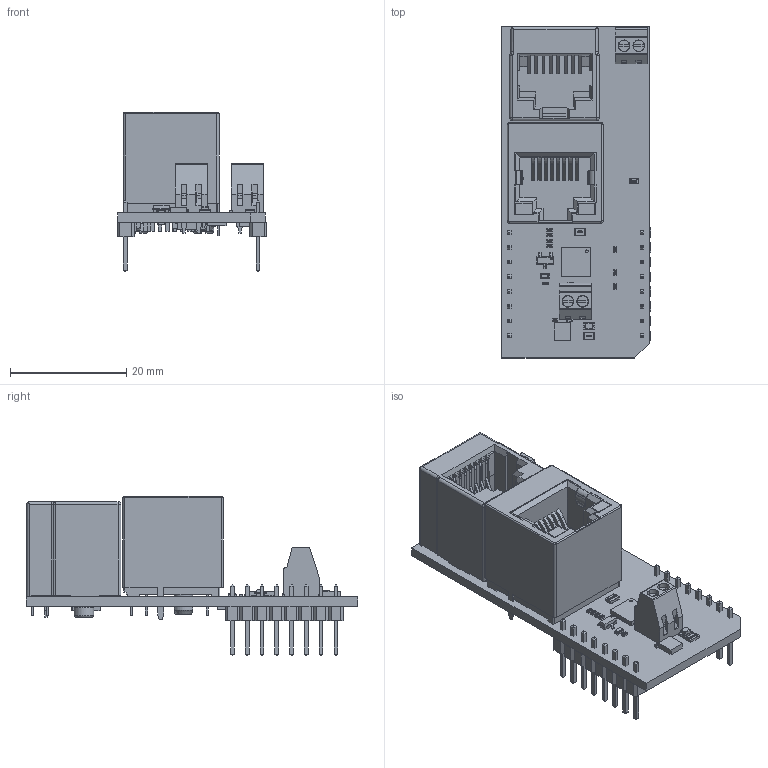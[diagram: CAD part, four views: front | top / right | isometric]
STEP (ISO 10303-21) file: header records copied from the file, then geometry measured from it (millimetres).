
FILE_DESCRIPTION(('Open CASCADE Model'),'2;1');
FILE_NAME('Open CASCADE Shape Model','2026-04-16T09:07:00',('Author'),( 'Open CASCADE'),'Open CASCADE STEP processor 6.8','Open CASCADE 6.8' ,'Unknown');
FILE_SCHEMA(('AUTOMOTIVE_DESIGN { 1 0 10303 214 1 1 1 1 }'));
Length unit declared in the file: millimetre
Products named in the file (67): PCB; Board; R18; User_Library-R_0402; R17; Q2; SOT23-3; LD2; Led_0603_RED; CN2; SI-46020-F; TVS1; User_Library-DO-214AC(SMA); C5; User_Library-SMD_CAPACITOR0603; C4; User_Library-SMD_CAPACITOR1210; TB2; ScrewTerminal_2.54; TB1; R16; R15; R14; C2; User_Library-SMD_CAPACITOR0402; R1; User_Library-R_0805; LD1; led_0805_green; R2; C1; U1; 1268868608; Extruded; MBD1; Header_1x8; Free-Models; 1240637040; User_Library-PinHeaderX5-1_PinHeaderX5_Body_1; User_Library-PinHeaderX5-1_PinHeaderX5_Pins_1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
Assembly tree (91 placements, depth 7):
  PCB
    Board
    R18
      User_Library-R_0402
    R17
      User_Library-R_0402
    Q2
      SOT23-3
    LD2
      Led_0603_RED
    CN2
      SI-46020-F
    TVS1
      User_Library-DO-214AC(SMA)
    C5
      User_Library-SMD_CAPACITOR0603
    C4
      User_Library-SMD_CAPACITOR1210
    TB2
      ScrewTerminal_2.54
    TB1
      ScrewTerminal_2.54
    R16
      User_Library-R_0402
    R15
      User_Library-R_0402
    R14
      User_Library-R_0402
    C2
      User_Library-SMD_CAPACITOR0402
    R1
      User_Library-R_0805
    LD1
      led_0805_green
    R2
      User_Library-R_0402
    C1
      User_Library-SMD_CAPACITOR0402
    U1
      1268868608
        Extruded
    MBD1
      Header_1x8  x2
        PCB
          Free-Models
            1240637040  x2
              User_Library-PinHeaderX5-1_PinHeaderX5_Body_1
              User_Library-PinHeaderX5-1_PinHeaderX5_Pins_1
    JP1
      User_Library-R_0603
    Q1
      1268577376
    R3
      User_Library-R_0402
    R4
      User_Library-R_0402
    R5
      User_Library-R_0402
    R6
      User_Library-R_0402
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Bounding box: 25.78 x 57.15 x 27.39 mm (x, y, z)
Volume: 9495.3 mm3; surface area: 13025.3 mm2
Topology: 162 solids, 162 shells, 4471 faces, 11473 edges, 7457 vertices
Faces by surface type: plane 3366, bspline 582, cylinder 453, sphere 54, torus 10, revolution 4, cone 2
Full cylindrical faces by diameter (mm): 0.9 x2
Entity records: 96269 total; most frequent: CARTESIAN_POINT 24439, ORIENTED_EDGE 12484, DIRECTION 11264, EDGE_CURVE 6242, LINE 5092, VECTOR 5092, VERTEX_POINT 4055, AXIS2_PLACEMENT_3D 3084
